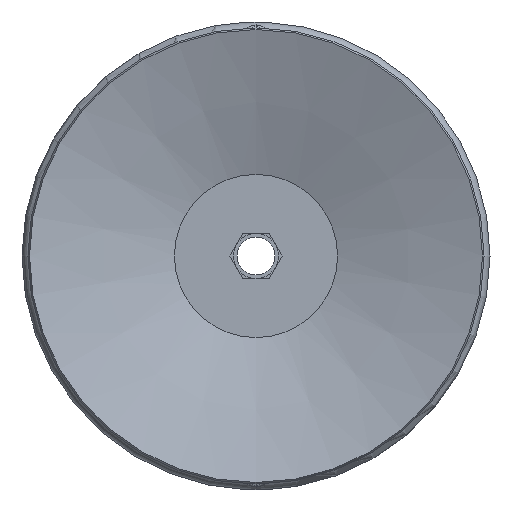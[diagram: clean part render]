
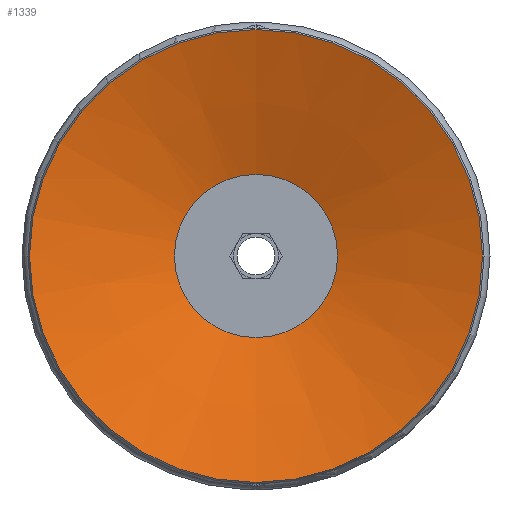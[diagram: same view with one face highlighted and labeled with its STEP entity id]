
A CAD part, front view. The second image highlights one B-rep face of the part: STEP entity #1339.
In plain terms, the highlighted conical face has half-angle 71.075 degrees and reference radius 15 mm.
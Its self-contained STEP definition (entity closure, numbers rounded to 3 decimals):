
#1339=ADVANCED_FACE('',(#3243,#3244),#3245,.F.);
#3243=FACE_BOUND('',#5977,.T.);
#3244=FACE_OUTER_BOUND('',#5978,.T.);
#3245=CONICAL_SURFACE('',#5979,15.0,1.24);
#5977=EDGE_LOOP('',(#9775));
#5978=EDGE_LOOP('',(#9776));
#5979=AXIS2_PLACEMENT_3D('',#9777,#9778,#9779);
#9775=ORIENTED_EDGE('',*,*,#16605,.T.);
#9776=ORIENTED_EDGE('',*,*,#16606,.T.);
#9777=CARTESIAN_POINT('',(0.,0.,0.0));
#9778=DIRECTION('',(0.0,0.,-1.0));
#9779=DIRECTION('',(0.0,1.0,0.));
#16605=EDGE_CURVE('',#20412,#20412,#20413,.T.);
#16606=EDGE_CURVE('',#20414,#20414,#20415,.T.);
#20412=VERTEX_POINT('',#27111);
#20413=CIRCLE('',#27112,5.4);
#20414=VERTEX_POINT('',#27113);
#20415=CIRCLE('',#27114,15.0);
#27111=CARTESIAN_POINT('',(-5.4,0.,3.291));
#27112=AXIS2_PLACEMENT_3D('',#32600,#32601,#32602);
#27113=CARTESIAN_POINT('',(0.,15.0,0.));
#27114=AXIS2_PLACEMENT_3D('',#32603,#32604,#32605);
#32600=CARTESIAN_POINT('',(0.,0.,3.291));
#32601=DIRECTION('',(0.,0.0,1.0));
#32602=DIRECTION('',(-1.0,0.0,0.));
#32603=CARTESIAN_POINT('',(0.,0.,0.0));
#32604=DIRECTION('',(0.0,0.,-1.0));
#32605=DIRECTION('',(0.0,1.0,0.));
